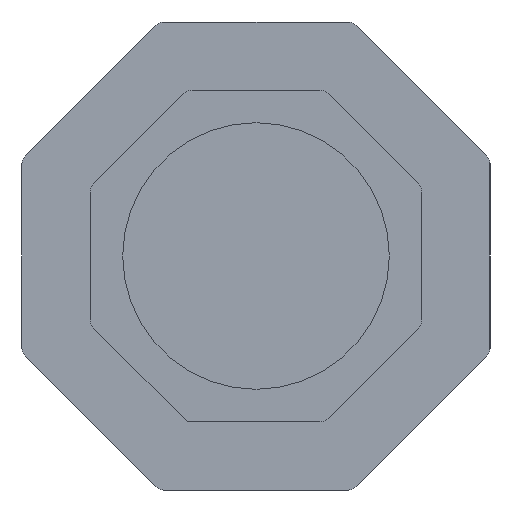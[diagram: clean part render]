
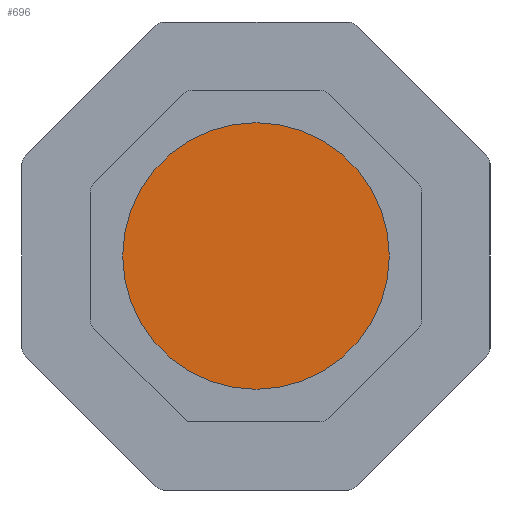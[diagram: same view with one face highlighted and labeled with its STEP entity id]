
A CAD part, left-side view. The second image highlights one B-rep face of the part: STEP entity #696.
In plain terms, the highlighted planar face has unit normal (-1, 0, 0).
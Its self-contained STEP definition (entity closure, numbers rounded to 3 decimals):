
#696=ADVANCED_FACE('',(#1540),#1542,.T.);
#1540=FACE_BOUND('',#1541,.T.);
#1541=EDGE_LOOP('',(#2172));
#1542=PLANE('',#1543);
#1543=AXIS2_PLACEMENT_3D('',#1544,#1545,#1546);
#1544=CARTESIAN_POINT('',(2945.709,1500.577,0.));
#1545=DIRECTION('',(-1.,0.,0.));
#1546=DIRECTION('',(0.,0.,1.));
#2172=ORIENTED_EDGE('',*,*,#2572,.T.);
#2572=EDGE_CURVE('',#2992,#2992,#2993,.T.);
#2992=VERTEX_POINT('',#3931);
#2993=CIRCLE('',#3932,22.5);
#3931=CARTESIAN_POINT('',(2945.709,1478.077,0.));
#3932=AXIS2_PLACEMENT_3D('',#3933,#3934,#3935);
#3933=CARTESIAN_POINT('',(2945.709,1500.577,0.));
#3934=DIRECTION('',(-1.,0.,0.));
#3935=DIRECTION('',(0.,-1.,0.));
